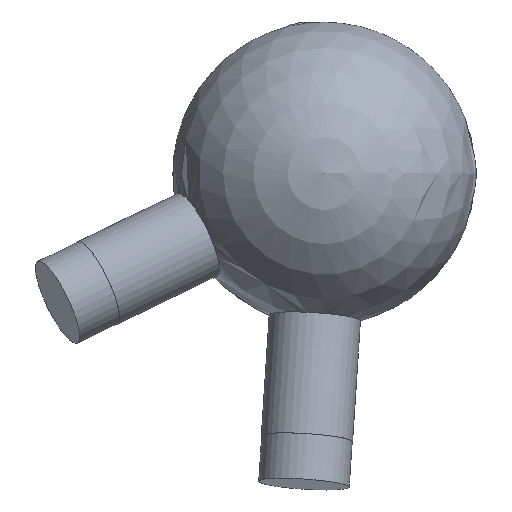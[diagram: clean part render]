
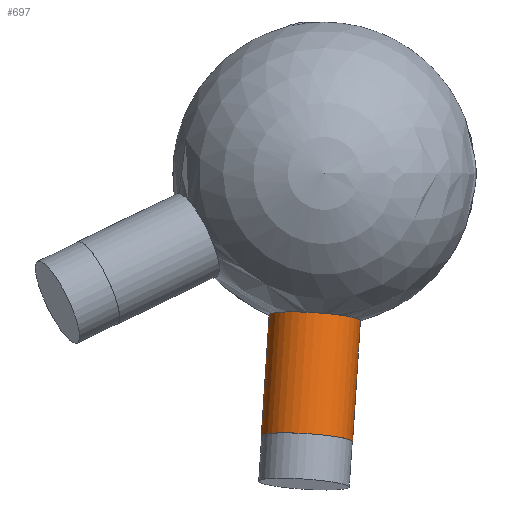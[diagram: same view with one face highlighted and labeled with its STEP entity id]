
A CAD part, top view. The second image highlights one B-rep face of the part: STEP entity #697.
In plain terms, the highlighted cylindrical face has radius 6 mm (diameter 12 mm), a full revolution.
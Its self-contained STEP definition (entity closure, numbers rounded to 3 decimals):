
#35 = SPHERICAL_SURFACE('',#36,20.);
#36 = AXIS2_PLACEMENT_3D('',#37,#38,#39);
#37 = CARTESIAN_POINT('',(0.,0.,0.));
#38 = DIRECTION('',(0.,0.,1.));
#39 = DIRECTION('',(1.,0.,-0.));
#449 = EDGE_CURVE('',#450,#450,#452,.T.);
#450 = VERTEX_POINT('',#451);
#451 = CARTESIAN_POINT('',(-1.229,-19.587,
    -3.85));
#452 = SURFACE_CURVE('',#453,(#458,#520),.PCURVE_S1.);
#453 = CIRCLE('',#454,6.);
#454 = AXIS2_PLACEMENT_3D('',#455,#456,#457);
#455 = CARTESIAN_POINT('',(-1.229,-18.922,
    2.113));
#456 = DIRECTION('',(-0.064,-0.992,0.111)
  );
#457 = DIRECTION('',(0.,-0.111,-0.994
    ));
#458 = PCURVE('',#35,#459);
#459 = DEFINITIONAL_REPRESENTATION('',(#460),#519);
#460 = B_SPLINE_CURVE_WITH_KNOTS('',8,(#461,#462,#463,#464,#465,#466,
    #467,#468,#469,#470,#471,#472,#473,#474,#475,#476,#477,#478,#479,
    #480,#481,#482,#483,#484,#485,#486,#487,#488,#489,#490,#491,#492,
    #493,#494,#495,#496,#497,#498,#499,#500,#501,#502,#503,#504,#505,
    #506,#507,#508,#509,#510,#511,#512,#513,#514,#515,#516,#517,#518),
  .UNSPECIFIED.,.T.,.F.,(9,7,7,7,7,7,7,7,9),(0.,0.785,
    1.473,2.074,2.6,3.521,
    4.211,5.247,6.283),.UNSPECIFIED.);
#461 = CARTESIAN_POINT('',(4.65,-0.194));
#462 = CARTESIAN_POINT('',(4.68,-0.194));
#463 = CARTESIAN_POINT('',(4.71,-0.19));
#464 = CARTESIAN_POINT('',(4.739,-0.183));
#465 = CARTESIAN_POINT('',(4.768,-0.173));
#466 = CARTESIAN_POINT('',(4.795,-0.16));
#467 = CARTESIAN_POINT('',(4.82,-0.144));
#468 = CARTESIAN_POINT('',(4.843,-0.125));
#469 = CARTESIAN_POINT('',(4.882,-0.086));
#470 = CARTESIAN_POINT('',(4.899,-0.065));
#471 = CARTESIAN_POINT('',(4.913,-0.044));
#472 = CARTESIAN_POINT('',(4.925,-0.021));
#473 = CARTESIAN_POINT('',(4.935,0.003));
#474 = CARTESIAN_POINT('',(4.943,0.028));
#475 = CARTESIAN_POINT('',(4.949,0.053));
#476 = CARTESIAN_POINT('',(4.955,0.101));
#477 = CARTESIAN_POINT('',(4.955,0.124));
#478 = CARTESIAN_POINT('',(4.954,0.146));
#479 = CARTESIAN_POINT('',(4.952,0.169));
#480 = CARTESIAN_POINT('',(4.947,0.191));
#481 = CARTESIAN_POINT('',(4.94,0.213));
#482 = CARTESIAN_POINT('',(4.932,0.234));
#483 = CARTESIAN_POINT('',(4.912,0.272));
#484 = CARTESIAN_POINT('',(4.902,0.289));
#485 = CARTESIAN_POINT('',(4.89,0.305));
#486 = CARTESIAN_POINT('',(4.877,0.32));
#487 = CARTESIAN_POINT('',(4.862,0.335));
#488 = CARTESIAN_POINT('',(4.847,0.348));
#489 = CARTESIAN_POINT('',(4.83,0.36));
#490 = CARTESIAN_POINT('',(4.781,0.389));
#491 = CARTESIAN_POINT('',(4.747,0.404));
#492 = CARTESIAN_POINT('',(4.71,0.414));
#493 = CARTESIAN_POINT('',(4.672,0.42));
#494 = CARTESIAN_POINT('',(4.634,0.42));
#495 = CARTESIAN_POINT('',(4.596,0.415));
#496 = CARTESIAN_POINT('',(4.559,0.406));
#497 = CARTESIAN_POINT('',(4.499,0.381));
#498 = CARTESIAN_POINT('',(4.475,0.368));
#499 = CARTESIAN_POINT('',(4.452,0.353));
#500 = CARTESIAN_POINT('',(4.432,0.335));
#501 = CARTESIAN_POINT('',(4.413,0.316));
#502 = CARTESIAN_POINT('',(4.397,0.295));
#503 = CARTESIAN_POINT('',(4.383,0.273));
#504 = CARTESIAN_POINT('',(4.354,0.214));
#505 = CARTESIAN_POINT('',(4.342,0.177));
#506 = CARTESIAN_POINT('',(4.336,0.138));
#507 = CARTESIAN_POINT('',(4.336,0.098));
#508 = CARTESIAN_POINT('',(4.341,0.059));
#509 = CARTESIAN_POINT('',(4.351,0.021));
#510 = CARTESIAN_POINT('',(4.367,-0.015));
#511 = CARTESIAN_POINT('',(4.408,-0.081));
#512 = CARTESIAN_POINT('',(4.433,-0.112));
#513 = CARTESIAN_POINT('',(4.462,-0.138));
#514 = CARTESIAN_POINT('',(4.495,-0.16));
#515 = CARTESIAN_POINT('',(4.532,-0.177));
#516 = CARTESIAN_POINT('',(4.57,-0.188));
#517 = CARTESIAN_POINT('',(4.61,-0.194));
#518 = CARTESIAN_POINT('',(4.65,-0.194));
#519 = ( GEOMETRIC_REPRESENTATION_CONTEXT(2) 
PARAMETRIC_REPRESENTATION_CONTEXT() REPRESENTATION_CONTEXT('2D SPACE',''
  ) );
#520 = PCURVE('',#521,#526);
#521 = CYLINDRICAL_SURFACE('',#522,6.);
#522 = AXIS2_PLACEMENT_3D('',#523,#524,#525);
#523 = CARTESIAN_POINT('',(0.,0.,0.));
#524 = DIRECTION('',(-0.064,-0.992,0.111)
  );
#525 = DIRECTION('',(0.,-0.111,-0.994
    ));
#526 = DEFINITIONAL_REPRESENTATION('',(#527),#531);
#527 = LINE('',#528,#529);
#528 = CARTESIAN_POINT('',(0.,19.079));
#529 = VECTOR('',#530,1.);
#530 = DIRECTION('',(1.,0.));
#531 = ( GEOMETRIC_REPRESENTATION_CONTEXT(2) 
PARAMETRIC_REPRESENTATION_CONTEXT() REPRESENTATION_CONTEXT('2D SPACE',''
  ) );
#697 = ADVANCED_FACE('',(#698),#521,.T.);
#698 = FACE_BOUND('',#699,.T.);
#699 = EDGE_LOOP('',(#700,#723,#750,#751));
#700 = ORIENTED_EDGE('',*,*,#701,.T.);
#701 = EDGE_CURVE('',#450,#702,#704,.T.);
#702 = VERTEX_POINT('',#703);
#703 = CARTESIAN_POINT('',(-2.26,-35.453,
    -2.079));
#704 = SEAM_CURVE('',#705,(#709,#716),.PCURVE_S1.);
#705 = LINE('',#706,#707);
#706 = CARTESIAN_POINT('',(0.,-0.666,
    -5.963));
#707 = VECTOR('',#708,1.);
#708 = DIRECTION('',(-0.064,-0.992,0.111)
  );
#709 = PCURVE('',#521,#710);
#710 = DEFINITIONAL_REPRESENTATION('',(#711),#715);
#711 = LINE('',#712,#713);
#712 = CARTESIAN_POINT('',(6.283,-0.));
#713 = VECTOR('',#714,1.);
#714 = DIRECTION('',(0.,1.));
#715 = ( GEOMETRIC_REPRESENTATION_CONTEXT(2) 
PARAMETRIC_REPRESENTATION_CONTEXT() REPRESENTATION_CONTEXT('2D SPACE',''
  ) );
#716 = PCURVE('',#521,#717);
#717 = DEFINITIONAL_REPRESENTATION('',(#718),#722);
#718 = LINE('',#719,#720);
#719 = CARTESIAN_POINT('',(0.,-0.));
#720 = VECTOR('',#721,1.);
#721 = DIRECTION('',(0.,1.));
#722 = ( GEOMETRIC_REPRESENTATION_CONTEXT(2) 
PARAMETRIC_REPRESENTATION_CONTEXT() REPRESENTATION_CONTEXT('2D SPACE',''
  ) );
#723 = ORIENTED_EDGE('',*,*,#724,.F.);
#724 = EDGE_CURVE('',#702,#702,#725,.T.);
#725 = SURFACE_CURVE('',#726,(#731,#738),.PCURVE_S1.);
#726 = CIRCLE('',#727,6.);
#727 = AXIS2_PLACEMENT_3D('',#728,#729,#730);
#728 = CARTESIAN_POINT('',(-2.26,-34.788,
    3.884));
#729 = DIRECTION('',(-0.064,-0.992,0.111)
  );
#730 = DIRECTION('',(0.,-0.111,-0.994
    ));
#731 = PCURVE('',#521,#732);
#732 = DEFINITIONAL_REPRESENTATION('',(#733),#737);
#733 = LINE('',#734,#735);
#734 = CARTESIAN_POINT('',(0.,35.077));
#735 = VECTOR('',#736,1.);
#736 = DIRECTION('',(1.,0.));
#737 = ( GEOMETRIC_REPRESENTATION_CONTEXT(2) 
PARAMETRIC_REPRESENTATION_CONTEXT() REPRESENTATION_CONTEXT('2D SPACE',''
  ) );
#738 = PCURVE('',#739,#744);
#739 = PLANE('',#740);
#740 = AXIS2_PLACEMENT_3D('',#741,#742,#743);
#741 = CARTESIAN_POINT('',(-2.26,-34.788,
    3.884));
#742 = DIRECTION('',(-0.064,-0.992,0.111)
  );
#743 = DIRECTION('',(0.,-0.111,-0.994
    ));
#744 = DEFINITIONAL_REPRESENTATION('',(#745),#749);
#745 = CIRCLE('',#746,6.);
#746 = AXIS2_PLACEMENT_2D('',#747,#748);
#747 = CARTESIAN_POINT('',(0.,0.));
#748 = DIRECTION('',(1.,0.));
#749 = ( GEOMETRIC_REPRESENTATION_CONTEXT(2) 
PARAMETRIC_REPRESENTATION_CONTEXT() REPRESENTATION_CONTEXT('2D SPACE',''
  ) );
#750 = ORIENTED_EDGE('',*,*,#701,.F.);
#751 = ORIENTED_EDGE('',*,*,#449,.T.);
